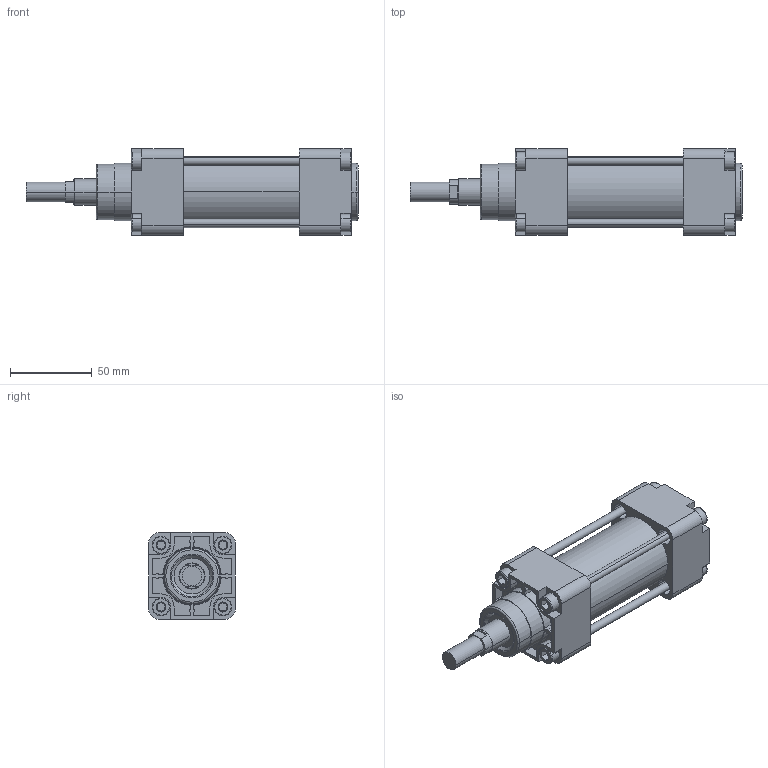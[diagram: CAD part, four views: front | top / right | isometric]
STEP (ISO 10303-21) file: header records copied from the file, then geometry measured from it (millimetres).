
FILE_DESCRIPTION(('CATIA V5 STEP Exchange','CAx-IF Rec.Pracs.--- Model Styling and Organization---1.4--- 2014-01-23','CAx-IF Rec.Pracs.---3D Tessellated Data Validation Properties---0.5---2014-09-14'),'2;1');
FILE_NAME('D:\D-Old\stp file for catalog\PNC-STP\30\PNC 40-16-30.stp','2021-08-24T09:51:37+00:00',('none'),('none'),'CATIA Version 5-6 Release 2018 SP6','CATIA V5 STEP AP242','none');
FILE_SCHEMA(('AP242_MANAGED_MODEL_BASED_3D_ENGINEERING_MIM_LF {1 0 10303 442 1 1 4}'));
Length unit declared in the file: millimetre
Products named in the file (3): PNC 40-16-30-00; PNC 40-16-30-01; PNC 40-16-30-02
Assembly tree (2 placements, depth 2):
  PNC 40-16-30-00
    PNC 40-16-30-01
    PNC 40-16-30-02
Bounding box: 203.5 x 53 x 53 mm (x, y, z)
Volume: 263539.6 mm3; surface area: 84579.3 mm2
Topology: 2 solids, 2 shells, 562 faces, 1417 edges, 920 vertices
Faces by surface type: plane 352, cylinder 158, torus 26, cone 18, extrusion 8
Entity records: 15180 total; most frequent: CARTESIAN_POINT 2889, ORIENTED_EDGE 2834, DIRECTION 1905, EDGE_CURVE 1417, VERTEX_POINT 920, VECTOR 877, LINE 869, AXIS2_PLACEMENT_3D 764
